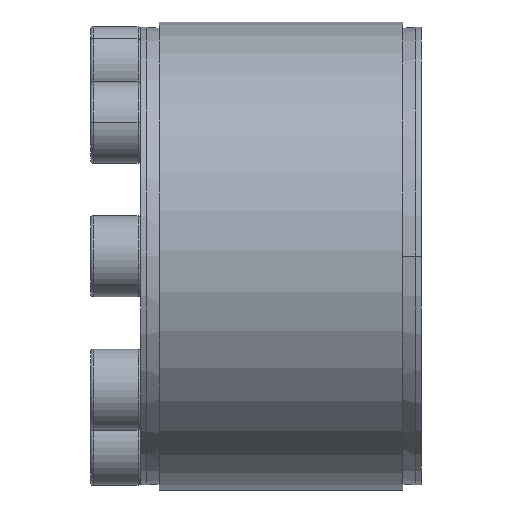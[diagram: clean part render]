
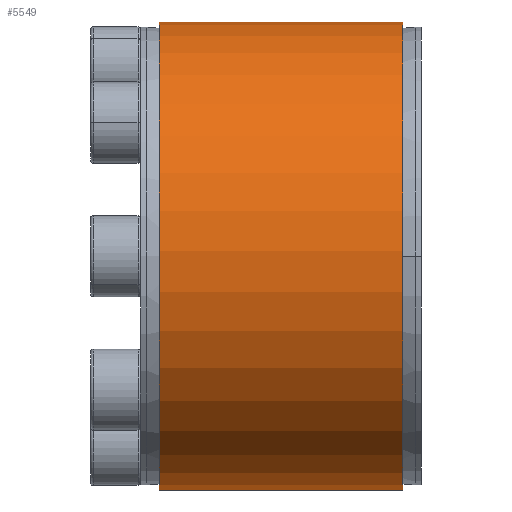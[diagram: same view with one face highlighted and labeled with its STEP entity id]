
A CAD part, front view. The second image highlights one B-rep face of the part: STEP entity #5549.
In plain terms, the highlighted cylindrical face has radius 37.5 mm (diameter 75 mm), a partial arc.
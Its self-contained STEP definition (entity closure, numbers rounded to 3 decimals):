
#200 = CARTESIAN_POINT ( 'NONE',  ( -43.29, -1.5, -37.47 ) ) ;
#435 = AXIS2_PLACEMENT_3D ( 'NONE', #5126, #5184, #5575 ) ;
#698 = ORIENTED_EDGE ( 'NONE', *, *, #5927, .T. ) ;
#707 = ORIENTED_EDGE ( 'NONE', *, *, #5939, .T. ) ;
#1120 = VERTEX_POINT ( 'NONE', #1342 ) ;
#1342 = CARTESIAN_POINT ( 'NONE',  ( -17.268, -1.5, -37.47 ) ) ;
#1536 = DIRECTION ( 'NONE',  ( 0., 0., 1. ) ) ;
#1927 = DIRECTION ( 'NONE',  ( -1., 0., 0. ) ) ;
#2056 = CARTESIAN_POINT ( 'NONE',  ( -17.268, 0., 37.5 ) ) ;
#2092 = DIRECTION ( 'NONE',  ( -1., 0., 0. ) ) ;
#2318 = EDGE_LOOP ( 'NONE', ( #707, #698, #7024, #5466 ) ) ;
#2348 = DIRECTION ( 'NONE',  ( 1., 0., 0. ) ) ;
#2853 = CIRCLE ( 'NONE', #7331, 37.5 ) ;
#3134 = CYLINDRICAL_SURFACE ( 'NONE', #435, 37.5 ) ;
#3305 = FACE_OUTER_BOUND ( 'NONE', #2318, .T. ) ;
#3578 = CARTESIAN_POINT ( 'NONE',  ( -43.29, 0., 37.5 ) ) ;
#4008 = VERTEX_POINT ( 'NONE', #4670 ) ;
#4597 = CARTESIAN_POINT ( 'NONE',  ( -17.268, 0., 0. ) ) ;
#4670 = CARTESIAN_POINT ( 'NONE',  ( 21.732, -1.5, -37.47 ) ) ;
#4834 = VECTOR ( 'NONE', #6902, 1000. ) ;
#5126 = CARTESIAN_POINT ( 'NONE',  ( -43.29, 0., 0. ) ) ;
#5184 = DIRECTION ( 'NONE',  ( -1., 0., 0. ) ) ;
#5466 = ORIENTED_EDGE ( 'NONE', *, *, #5990, .T. ) ;
#5490 = DIRECTION ( 'NONE',  ( 0., 0., 1. ) ) ;
#5549 = ADVANCED_FACE ( 'NONE', ( #3305 ), #3134, .T. ) ;
#5575 = DIRECTION ( 'NONE',  ( 0., 0., 1. ) ) ;
#5865 = LINE ( 'NONE', #200, #7043 ) ;
#5927 = EDGE_CURVE ( 'NONE', #7051, #6851, #6255, .T. ) ;
#5939 = EDGE_CURVE ( 'NONE', #4008, #7051, #2853, .T. ) ;
#5954 = EDGE_CURVE ( 'NONE', #1120, #6851, #7398, .T. ) ;
#5990 = EDGE_CURVE ( 'NONE', #1120, #4008, #5865, .T. ) ;
#6189 = AXIS2_PLACEMENT_3D ( 'NONE', #4597, #2092, #5490 ) ;
#6255 = LINE ( 'NONE', #3578, #4834 ) ;
#6727 = CARTESIAN_POINT ( 'NONE',  ( 21.732, 0., 0. ) ) ;
#6851 = VERTEX_POINT ( 'NONE', #2056 ) ;
#6902 = DIRECTION ( 'NONE',  ( -1., 0., 0. ) ) ;
#7024 = ORIENTED_EDGE ( 'NONE', *, *, #5954, .F. ) ;
#7043 = VECTOR ( 'NONE', #2348, 1000. ) ;
#7051 = VERTEX_POINT ( 'NONE', #7383 ) ;
#7331 = AXIS2_PLACEMENT_3D ( 'NONE', #6727, #1927, #1536 ) ;
#7383 = CARTESIAN_POINT ( 'NONE',  ( 21.732, 0., 37.5 ) ) ;
#7398 = CIRCLE ( 'NONE', #6189, 37.5 ) ;
